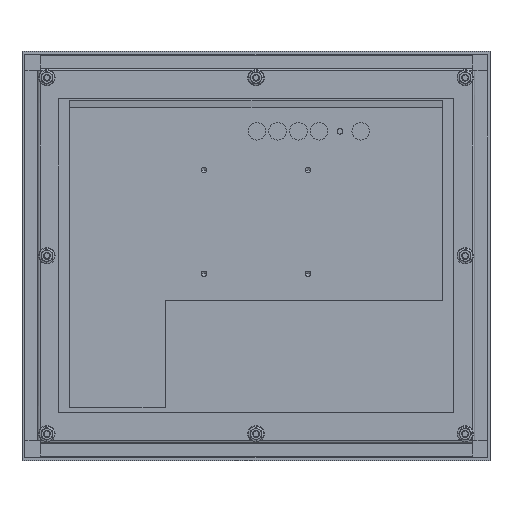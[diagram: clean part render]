
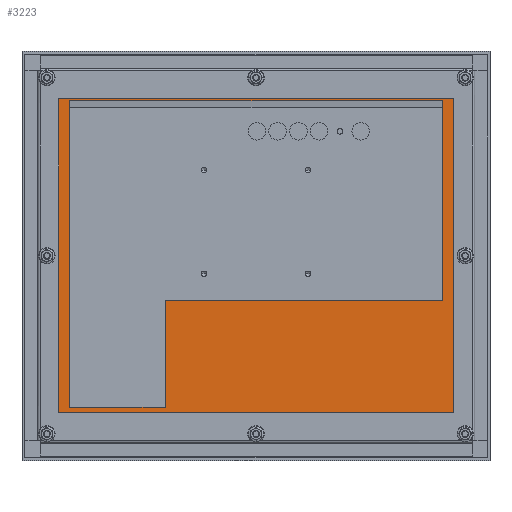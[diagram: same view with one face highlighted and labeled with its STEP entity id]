
A CAD part, top view. The second image highlights one B-rep face of the part: STEP entity #3223.
In plain terms, the highlighted planar face has unit normal (0, 0, 1).
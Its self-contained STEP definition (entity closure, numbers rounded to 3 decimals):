
#319 = ORIENTED_EDGE ( 'NONE', *, *, #2123, .T. ) ;
#406 = CARTESIAN_POINT ( 'NONE',  ( 182.697, 445.135, 17.45 ) ) ;
#448 = EDGE_CURVE ( 'NONE', #1014, #3364, #6117, .T. ) ;
#509 = ORIENTED_EDGE ( 'NONE', *, *, #977, .T. ) ;
#519 = CARTESIAN_POINT ( 'NONE',  ( 179.649, 442.087, 17.45 ) ) ;
#586 = DIRECTION ( 'NONE',  ( 0., 1., 0. ) ) ;
#592 = EDGE_CURVE ( 'NONE', #8717, #8036, #6922, .T. ) ;
#618 = AXIS2_PLACEMENT_3D ( 'NONE', #1531, #3408, #3794 ) ;
#635 = CARTESIAN_POINT ( 'NONE',  ( 462.899, 287.066, 17.45 ) ) ;
#776 = DIRECTION ( 'NONE',  ( 0., 1., 0. ) ) ;
#782 = CARTESIAN_POINT ( 'NONE',  ( 182.676, 192.984, 17.45 ) ) ;
#836 = VERTEX_POINT ( 'NONE', #3558 ) ;
#846 = EDGE_CURVE ( 'NONE', #2079, #4932, #2156, .T. ) ;
#977 = EDGE_CURVE ( 'NONE', #4932, #2500, #8921, .T. ) ;
#1014 = VERTEX_POINT ( 'NONE', #3074 ) ;
#1062 = ORIENTED_EDGE ( 'NONE', *, *, #7291, .F. ) ;
#1115 = DIRECTION ( 'NONE',  ( 1., 0., 0. ) ) ;
#1151 = CARTESIAN_POINT ( 'NONE',  ( 472.914, 445.135, 17.45 ) ) ;
#1199 = CARTESIAN_POINT ( 'NONE',  ( 193.506, 209.799, 17.45 ) ) ;
#1211 = VECTOR ( 'NONE', #4512, 1000. ) ;
#1346 = CARTESIAN_POINT ( 'NONE',  ( 476.742, 195.605, 17.45 ) ) ;
#1531 = CARTESIAN_POINT ( 'NONE',  ( 0., 0., 17.45 ) ) ;
#1563 = CARTESIAN_POINT ( 'NONE',  ( 179.649, 442.087, 17.45 ) ) ;
#1673 = VECTOR ( 'NONE', #2124, 1000. ) ;
#1693 = CARTESIAN_POINT ( 'NONE',  ( 179.649, 196.011, 17.45 ) ) ;
#1714 = ORIENTED_EDGE ( 'NONE', *, *, #2593, .T. ) ;
#1730 = EDGE_CURVE ( 'NONE', #8036, #2079, #6189, .T. ) ;
#1764 = VECTOR ( 'NONE', #2323, 1000. ) ;
#1881 = CARTESIAN_POINT ( 'NONE',  ( 262.544, 209.799, 17.45 ) ) ;
#1961 = ORIENTED_EDGE ( 'NONE', *, *, #1730, .T. ) ;
#2079 = VERTEX_POINT ( 'NONE', #6085 ) ;
#2123 = EDGE_CURVE ( 'NONE', #2500, #1014, #4921, .T. ) ;
#2124 = DIRECTION ( 'NONE',  ( 1., 0., 0. ) ) ;
#2156 = LINE ( 'NONE', #1346, #2390 ) ;
#2323 = DIRECTION ( 'NONE',  ( 1., 0., 0. ) ) ;
#2346 = EDGE_CURVE ( 'NONE', #3104, #4343, #7226, .T. ) ;
#2390 = VECTOR ( 'NONE', #6564, 1000. ) ;
#2441 = CARTESIAN_POINT ( 'NONE',  ( 474.121, 192.984, 17.45 ) ) ;
#2500 = VERTEX_POINT ( 'NONE', #4713 ) ;
#2593 = EDGE_CURVE ( 'NONE', #3364, #4180, #8874, .T. ) ;
#2604 = CARTESIAN_POINT ( 'NONE',  ( 262.544, 209.799, 17.45 ) ) ;
#2689 = DIRECTION ( 'NONE',  ( -0.707, -0.707, 0. ) ) ;
#2693 = VECTOR ( 'NONE', #2689, 1000. ) ;
#2717 = EDGE_CURVE ( 'NONE', #4343, #7099, #7699, .T. ) ;
#2931 = VERTEX_POINT ( 'NONE', #8005 ) ;
#2937 = PLANE ( 'NONE',  #618 ) ;
#2972 = EDGE_CURVE ( 'NONE', #4180, #8717, #3371, .T. ) ;
#3018 = FACE_OUTER_BOUND ( 'NONE', #3196, .T. ) ;
#3023 = DIRECTION ( 'NONE',  ( -1., 0., 0. ) ) ;
#3074 = CARTESIAN_POINT ( 'NONE',  ( 472.914, 445.135, 17.45 ) ) ;
#3104 = VERTEX_POINT ( 'NONE', #7233 ) ;
#3196 = EDGE_LOOP ( 'NONE', ( #4181, #4000, #1961, #8639, #509, #319, #6882, #1714 ) ) ;
#3218 = ORIENTED_EDGE ( 'NONE', *, *, #9642, .F. ) ;
#3220 = VERTEX_POINT ( 'NONE', #2604 ) ;
#3223 = ADVANCED_FACE ( 'NONE', ( #3018, #3244 ), #2937, .F. ) ;
#3244 = FACE_BOUND ( 'NONE', #7560, .T. ) ;
#3364 = VERTEX_POINT ( 'NONE', #406 ) ;
#3371 = LINE ( 'NONE', #8980, #7095 ) ;
#3408 = DIRECTION ( 'NONE',  ( 0., 0., -1. ) ) ;
#3437 = LINE ( 'NONE', #5064, #7648 ) ;
#3558 = CARTESIAN_POINT ( 'NONE',  ( 462.899, 287.066, 17.45 ) ) ;
#3695 = ORIENTED_EDGE ( 'NONE', *, *, #4056, .F. ) ;
#3794 = DIRECTION ( 'NONE',  ( -1., 0., 0. ) ) ;
#3950 = VECTOR ( 'NONE', #6018, 1000. ) ;
#4000 = ORIENTED_EDGE ( 'NONE', *, *, #592, .T. ) ;
#4056 = EDGE_CURVE ( 'NONE', #7099, #3220, #8369, .T. ) ;
#4142 = VECTOR ( 'NONE', #3023, 1000. ) ;
#4180 = VERTEX_POINT ( 'NONE', #519 ) ;
#4181 = ORIENTED_EDGE ( 'NONE', *, *, #2972, .T. ) ;
#4343 = VERTEX_POINT ( 'NONE', #6677 ) ;
#4512 = DIRECTION ( 'NONE',  ( 0., 1., 0. ) ) ;
#4677 = VECTOR ( 'NONE', #6605, 1000. ) ;
#4713 = CARTESIAN_POINT ( 'NONE',  ( 476.742, 441.307, 17.45 ) ) ;
#4886 = VECTOR ( 'NONE', #1115, 1000. ) ;
#4921 = LINE ( 'NONE', #1151, #4677 ) ;
#4932 = VERTEX_POINT ( 'NONE', #8996 ) ;
#5064 = CARTESIAN_POINT ( 'NONE',  ( 262.544, 287.066, 17.45 ) ) ;
#5180 = VECTOR ( 'NONE', #9090, 1000. ) ;
#5258 = ORIENTED_EDGE ( 'NONE', *, *, #2346, .F. ) ;
#5923 = EDGE_CURVE ( 'NONE', #3220, #2931, #3437, .T. ) ;
#6002 = CARTESIAN_POINT ( 'NONE',  ( 462.899, 425.902, 17.45 ) ) ;
#6018 = DIRECTION ( 'NONE',  ( 0., -1., 0. ) ) ;
#6085 = CARTESIAN_POINT ( 'NONE',  ( 474.121, 192.984, 17.45 ) ) ;
#6110 = CARTESIAN_POINT ( 'NONE',  ( 182.676, 192.984, 17.45 ) ) ;
#6117 = LINE ( 'NONE', #7480, #4142 ) ;
#6189 = LINE ( 'NONE', #2441, #1764 ) ;
#6394 = CARTESIAN_POINT ( 'NONE',  ( 193.506, 209.799, 17.45 ) ) ;
#6532 = VECTOR ( 'NONE', #9210, 1000. ) ;
#6564 = DIRECTION ( 'NONE',  ( 0.707, 0.707, 0. ) ) ;
#6605 = DIRECTION ( 'NONE',  ( -0.707, 0.707, 0. ) ) ;
#6677 = CARTESIAN_POINT ( 'NONE',  ( 193.506, 431.263, 17.45 ) ) ;
#6856 = LINE ( 'NONE', #6002, #8871 ) ;
#6882 = ORIENTED_EDGE ( 'NONE', *, *, #448, .T. ) ;
#6922 = LINE ( 'NONE', #6110, #5180 ) ;
#7095 = VECTOR ( 'NONE', #8925, 1000. ) ;
#7099 = VERTEX_POINT ( 'NONE', #1199 ) ;
#7226 = LINE ( 'NONE', #9160, #6532 ) ;
#7233 = CARTESIAN_POINT ( 'NONE',  ( 462.899, 431.263, 17.45 ) ) ;
#7291 = EDGE_CURVE ( 'NONE', #2931, #836, #9378, .T. ) ;
#7480 = CARTESIAN_POINT ( 'NONE',  ( 182.697, 445.135, 17.45 ) ) ;
#7560 = EDGE_LOOP ( 'NONE', ( #8516, #5258, #3218, #1062, #8938, #3695 ) ) ;
#7648 = VECTOR ( 'NONE', #586, 1000. ) ;
#7699 = LINE ( 'NONE', #6394, #3950 ) ;
#8005 = CARTESIAN_POINT ( 'NONE',  ( 262.544, 287.066, 17.45 ) ) ;
#8036 = VERTEX_POINT ( 'NONE', #782 ) ;
#8369 = LINE ( 'NONE', #1881, #4886 ) ;
#8516 = ORIENTED_EDGE ( 'NONE', *, *, #2717, .F. ) ;
#8639 = ORIENTED_EDGE ( 'NONE', *, *, #846, .T. ) ;
#8717 = VERTEX_POINT ( 'NONE', #1693 ) ;
#8871 = VECTOR ( 'NONE', #776, 1000. ) ;
#8874 = LINE ( 'NONE', #1563, #2693 ) ;
#8921 = LINE ( 'NONE', #9012, #1211 ) ;
#8925 = DIRECTION ( 'NONE',  ( 0., -1., 0. ) ) ;
#8938 = ORIENTED_EDGE ( 'NONE', *, *, #5923, .F. ) ;
#8980 = CARTESIAN_POINT ( 'NONE',  ( 179.649, 196.011, 17.45 ) ) ;
#8996 = CARTESIAN_POINT ( 'NONE',  ( 476.742, 195.605, 17.45 ) ) ;
#9012 = CARTESIAN_POINT ( 'NONE',  ( 476.742, 441.307, 17.45 ) ) ;
#9090 = DIRECTION ( 'NONE',  ( 0.707, -0.707, 0. ) ) ;
#9160 = CARTESIAN_POINT ( 'NONE',  ( 0., 431.263, 17.45 ) ) ;
#9210 = DIRECTION ( 'NONE',  ( -1., 0., 0. ) ) ;
#9378 = LINE ( 'NONE', #635, #1673 ) ;
#9642 = EDGE_CURVE ( 'NONE', #836, #3104, #6856, .T. ) ;
